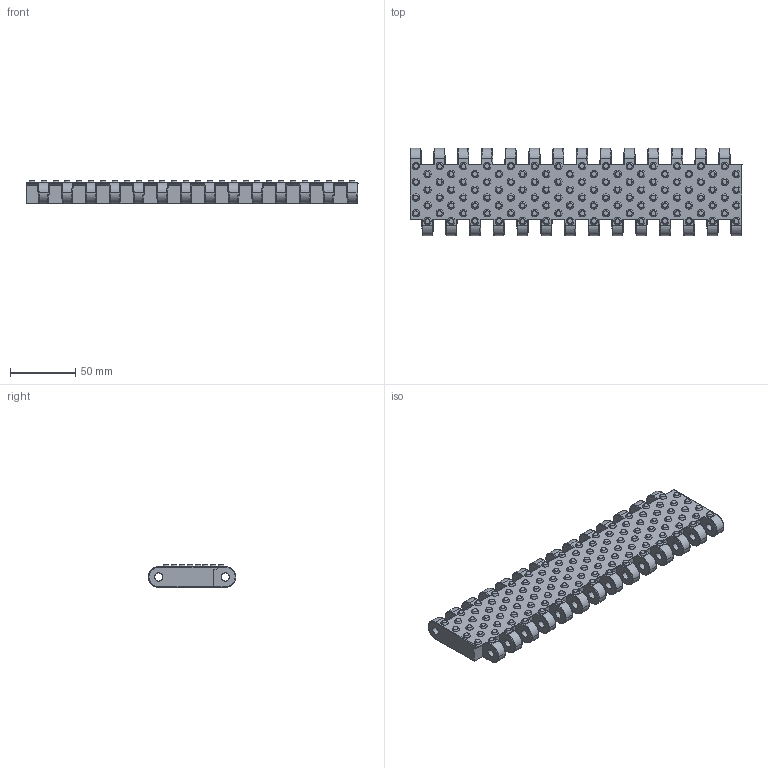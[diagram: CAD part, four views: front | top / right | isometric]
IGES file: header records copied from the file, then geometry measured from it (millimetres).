
Start section: SolidWorks IGES file using analytic representation for surfaces
Global section: file name: F:\3B WINRAR\D KATALOGU\50.8 YUMRU DESENLÝ HASIR BANT\50.8 mm YUMRU DESENLÝ HASIR BANT.IGS; native system: SolidWorks 2008; preprocessor: SolidWorks 2008; author: Administrator; date: 110516.181741; units: millimetre
Bounding box: 253.69 x 66.8 x 17.5 mm (x, y, z)
Surface area: 69046.3 mm2 (no closed solid volume)
Topology: 0 solids, 0 shells, 992 faces, 15760 edges, 15760 vertices
Faces by surface type: bspline 501, revolution 491
